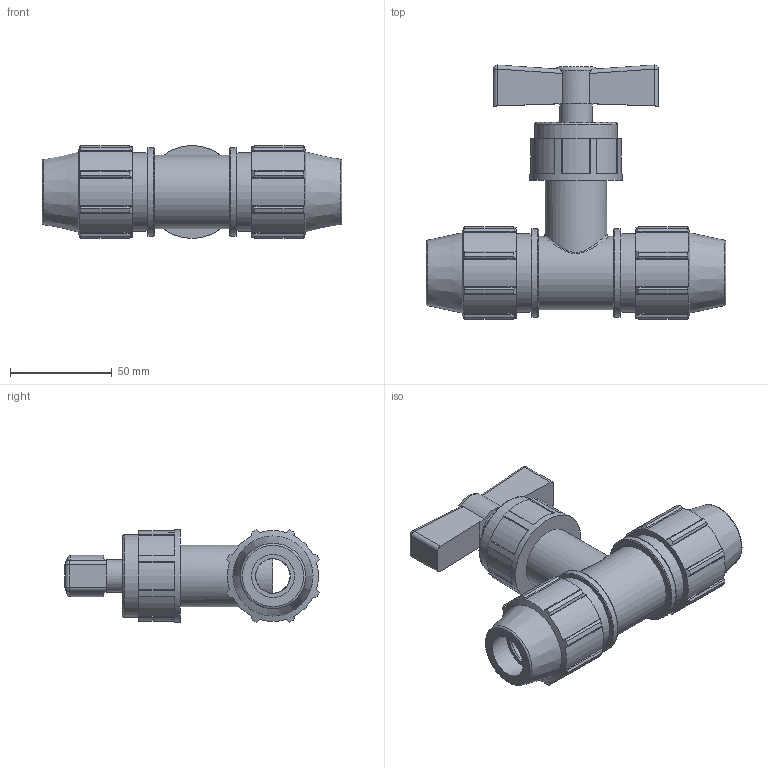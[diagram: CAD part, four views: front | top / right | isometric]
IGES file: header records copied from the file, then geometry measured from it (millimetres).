
Global section: file name: 0340M005.ipt; native system: Autodesk Inventor 2019; preprocessor: unknown; author: KIM; date: 20210826.124253; units: inch
Bounding box: 147.07 x 124.59 x 45.49 mm (x, y, z)
Volume: 226987.4 mm3; surface area: 47852.1 mm2
Topology: 1 solids, 1 shells, 235 faces, 657 edges, 439 vertices
Faces by surface type: plane 132, cylinder 63, cone 20, revolution 15, sphere 4, bspline 1
Full cylindrical faces by diameter (mm): 16.175 x1, 30.328 x1, 36.005 x1, 38.405 x2, 40.437 x1, 43.205 x2, 45.491 x1
